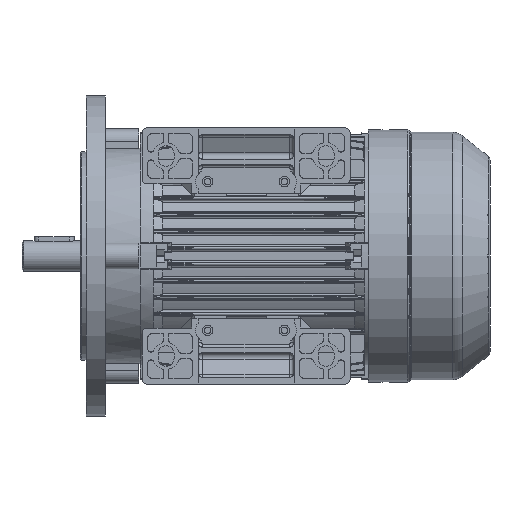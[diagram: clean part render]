
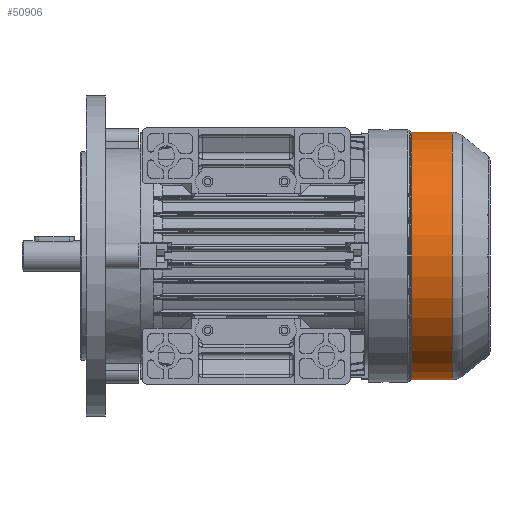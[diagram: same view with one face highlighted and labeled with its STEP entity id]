
A CAD part, front view. The second image highlights one B-rep face of the part: STEP entity #50906.
In plain terms, the highlighted cylindrical face has radius 77.3 mm (diameter 154.6 mm), a partial arc.
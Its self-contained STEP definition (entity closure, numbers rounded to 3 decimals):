
#1432 = CIRCLE ( 'NONE', #28628, 77.3 ) ;
#2758 = VECTOR ( 'NONE', #11096, 1000. ) ;
#2806 = CYLINDRICAL_SURFACE ( 'NONE', #8763, 77.3 ) ;
#8763 = AXIS2_PLACEMENT_3D ( 'NONE', #9674, #89440, #77628 ) ;
#9674 = CARTESIAN_POINT ( 'NONE',  ( -74., 0., 0. ) ) ;
#11096 = DIRECTION ( 'NONE',  ( -1., 0., 0. ) ) ;
#12094 = CARTESIAN_POINT ( 'NONE',  ( -52.518, 0., 77.3 ) ) ;
#15656 = VERTEX_POINT ( 'NONE', #23623 ) ;
#18781 = ORIENTED_EDGE ( 'NONE', *, *, #108709, .F. ) ;
#22912 = CARTESIAN_POINT ( 'NONE',  ( -74., 0., 77.3 ) ) ;
#23080 = CIRCLE ( 'NONE', #90984, 77.3 ) ;
#23623 = CARTESIAN_POINT ( 'NONE',  ( -26.914, 0., -77.3 ) ) ;
#24481 = VECTOR ( 'NONE', #39538, 1000. ) ;
#24899 = EDGE_CURVE ( 'NONE', #15656, #105987, #1432, .T. ) ;
#28628 = AXIS2_PLACEMENT_3D ( 'NONE', #89182, #77348, #65559 ) ;
#34648 = LINE ( 'NONE', #22912, #2758 ) ;
#39538 = DIRECTION ( 'NONE',  ( -1., 0., 0. ) ) ;
#41303 = ORIENTED_EDGE ( 'NONE', *, *, #82689, .T. ) ;
#50906 = ADVANCED_FACE ( 'NONE', ( #106150 ), #2806, .T. ) ;
#51332 = CARTESIAN_POINT ( 'NONE',  ( -74., 0., -77.3 ) ) ;
#54292 = CARTESIAN_POINT ( 'NONE',  ( -52.518, 0., -77.3 ) ) ;
#55547 = ORIENTED_EDGE ( 'NONE', *, *, #63828, .T. ) ;
#63828 = EDGE_CURVE ( 'NONE', #86743, #105994, #23080, .T. ) ;
#65559 = DIRECTION ( 'NONE',  ( 0., 0., 1. ) ) ;
#66143 = CARTESIAN_POINT ( 'NONE',  ( -26.914, 0., 77.3 ) ) ;
#77348 = DIRECTION ( 'NONE',  ( -1., 0., 0. ) ) ;
#77628 = DIRECTION ( 'NONE',  ( 0., 0., 1. ) ) ;
#82689 = EDGE_CURVE ( 'NONE', #105987, #86743, #34648, .T. ) ;
#84427 = DIRECTION ( 'NONE',  ( 0., 0., -1. ) ) ;
#85218 = EDGE_LOOP ( 'NONE', ( #18781, #96072, #41303, #55547 ) ) ;
#86743 = VERTEX_POINT ( 'NONE', #12094 ) ;
#89182 = CARTESIAN_POINT ( 'NONE',  ( -26.914, 0., 0. ) ) ;
#89440 = DIRECTION ( 'NONE',  ( -1., 0., 0. ) ) ;
#90984 = AXIS2_PLACEMENT_3D ( 'NONE', #108063, #96259, #84427 ) ;
#96072 = ORIENTED_EDGE ( 'NONE', *, *, #24899, .T. ) ;
#96259 = DIRECTION ( 'NONE',  ( 1., 0., 0. ) ) ;
#105987 = VERTEX_POINT ( 'NONE', #66143 ) ;
#105994 = VERTEX_POINT ( 'NONE', #54292 ) ;
#106150 = FACE_OUTER_BOUND ( 'NONE', #85218, .T. ) ;
#108063 = CARTESIAN_POINT ( 'NONE',  ( -52.518, 0., 0. ) ) ;
#108709 = EDGE_CURVE ( 'NONE', #15656, #105994, #110439, .T. ) ;
#110439 = LINE ( 'NONE', #51332, #24481 ) ;
